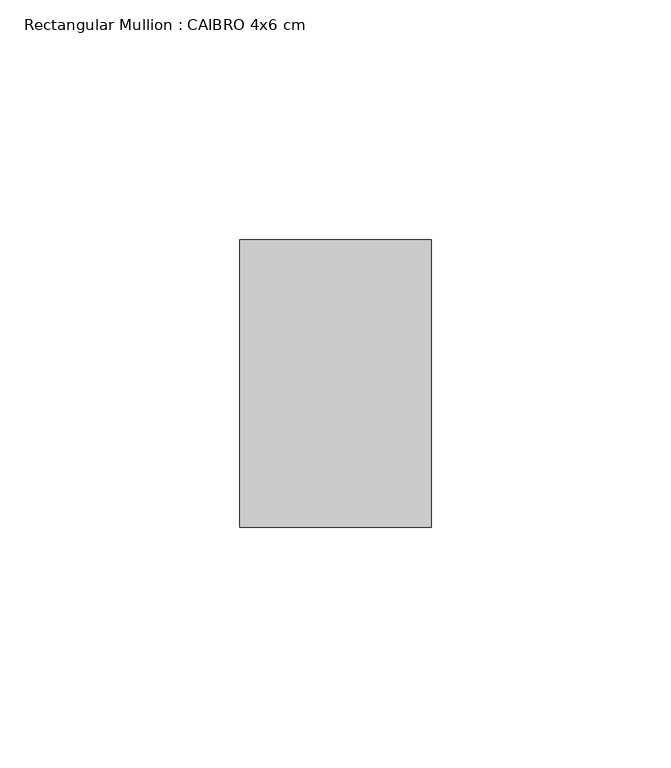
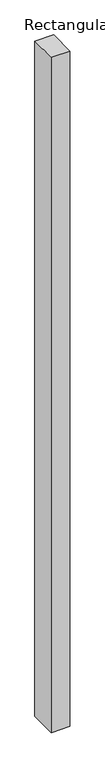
"""IFC4 building model written with IfcOpenShell, lengths in millimetres: member geometry, Rectangular Mullion : CAIBRO 4x6 cm."""

from ifc_helpers import new_model, si_unit, frame, origin, place, context, project, spatial, polyline, outline, extrude, source, transform, mapped, element, save


def rectangular_mullion_caibro_4x6_cm_b9eb0bee(model_context):
    return source(origin(), model_context, "Body", "SweptSolid", [
        extrude(outline(polyline([(0.0, 60.0), (0.0, 0.0), (-40.0, 0.0), (-40.0, 60.0), (0.0, 60.0)])), frame((0.0, 0.0, -1526.7251941), z_axis=(0.0, 0.0, 1.0), x_axis=(1.0, 0.0, 0.0)), (0.0, 0.0, 1.0), 1526.7251941),
    ])


if __name__ == "__main__":
    model = new_model("IFC4")
    model_context = context("Model", 3, world=origin())
    ifc_project = project(units=[si_unit("LENGTHUNIT", "METRE", prefix="MILLI")], contexts=[model_context])
    site = spatial("IfcSite", under=ifc_project)
    building = spatial("IfcBuilding", under=site)
    placement = place(None, origin())
    rectangular_mullion_caibro_4x6_cm_shape = rectangular_mullion_caibro_4x6_cm_b9eb0bee(model_context)
    element("IfcMember", 1, ObjectType="Rectangular Mullion : CAIBRO 4x6 cm", at=placement, inside=building, context=model_context, shape_type="MappedRepresentation", body=[
        mapped(rectangular_mullion_caibro_4x6_cm_shape, transform((0.0, 0.0, 0.0), x_axis=(1.0, 0.0, 0.0), y_axis=(0.0, 1.0, 0.0), z_axis=(0.0, 0.0, 1.0))),
    ])
    save(model, "model.ifc")
